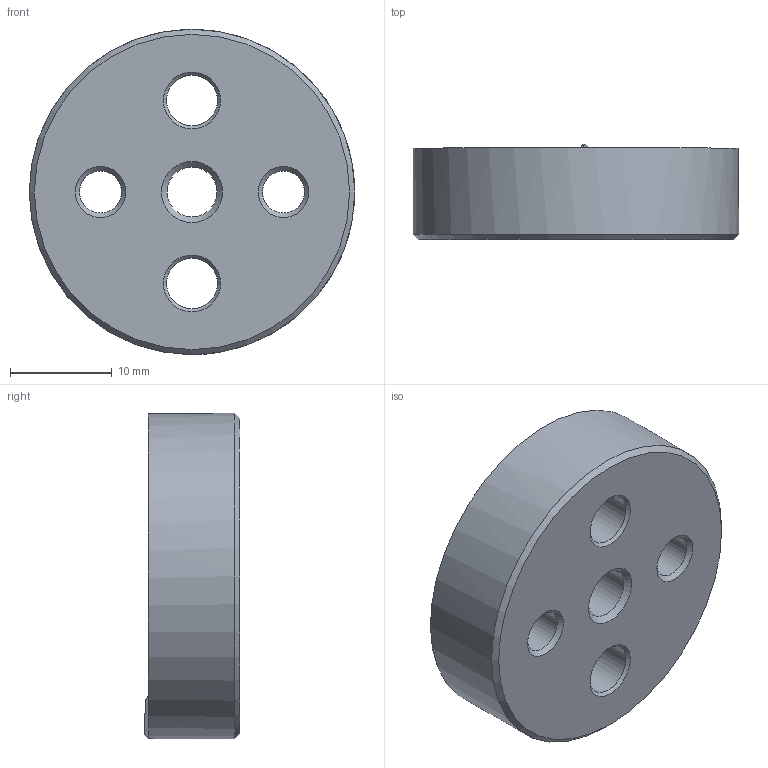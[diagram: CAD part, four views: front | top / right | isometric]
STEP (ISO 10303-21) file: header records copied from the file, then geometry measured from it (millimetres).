
FILE_DESCRIPTION( ( 'STEP AP203' ), '1' );
FILE_NAME( 'C:/Temp/Ganter_Step_05_03_2020/data/3_2/gn187_4/gn187_4_st/Serrated locking plate GN 187.4-32-60-C-ST.stp', '2020-03-13T05:25:43', ( 'License CC BY-ND 4.0' ), ( 'CADENAS' ), ' ', 'PARTsolutions', ' ' );
FILE_SCHEMA( ( 'CONFIG_CONTROL_DESIGN' ) );
Length unit declared in the file: millimetre
Products named in the file (1): _Serrated locking plate GN 187.4-32-60-C-ST
Bounding box: 32 x 9.43 x 32 mm (x, y, z)
Volume: 6097.5 mm3; surface area: 2944.7 mm2
Topology: 1 solids, 1 shells, 31 faces, 77 edges, 48 vertices
Faces by surface type: cone 15, cylinder 9, plane 7
Full cylindrical faces by diameter (mm): 4.134 x2, 4.917 x1, 5 x2, 23.5 x1, 32 x1
Entity records: 960 total; most frequent: CARTESIAN_POINT 241, DIRECTION 146, ORIENTED_EDGE 112, AXIS2_PLACEMENT_3D 70, EDGE_LOOP 59, EDGE_CURVE 56, VERTEX_POINT 45, FACE_OUTER_BOUND 38
